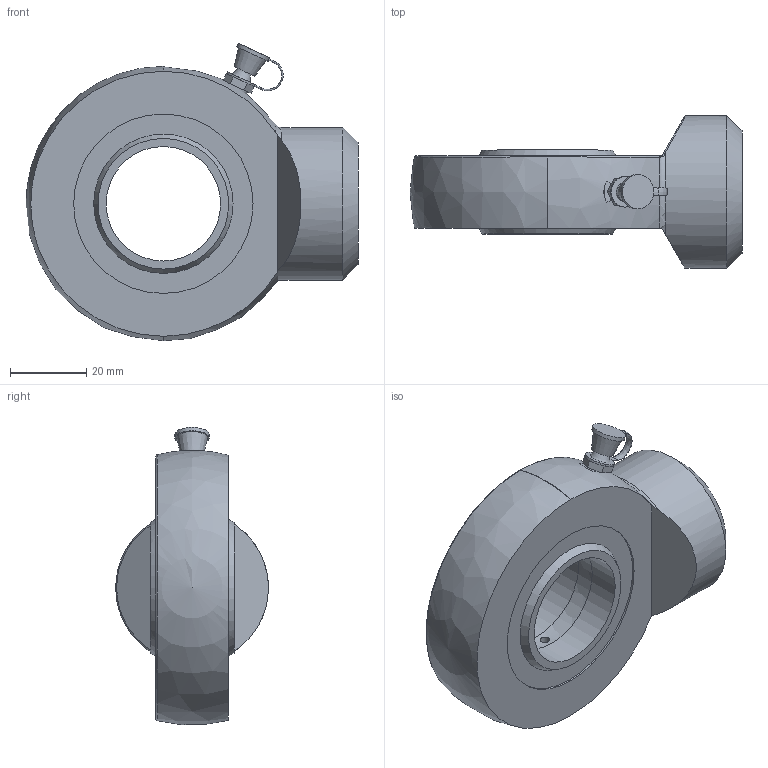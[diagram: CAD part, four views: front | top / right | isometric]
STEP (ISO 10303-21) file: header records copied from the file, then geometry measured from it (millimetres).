
FILE_DESCRIPTION( ( 'Unknown' ), '1' );
FILE_NAME( 'E:/LIBRERIA_3d/SNODI INDUSTRIALI/CSTS030C00.stp', 'Unknown', ( 'Unknown' ), ( 'Unknown' ), 'PSStep 17.0.49', 'Unknown', ' ' );
FILE_SCHEMA( ( 'AUTOMOTIVE_DESIGN { 1 0 10303 214 1 1 1 1 }' ) );
Length unit declared in the file: millimetre
Products named in the file (6): CSTSF030C0; tsc30c_CORPO; AN00006001; Assem1; CGE0300000; APGR013000
Assembly tree (5 placements, depth 3):
  Assem1
    CGE0300000
    APGR013000
    CSTSF030C0
      tsc30c_CORPO
      AN00006001
Bounding box: 87 x 39.96 x 77.93 mm (x, y, z)
Volume: 82955.5 mm3; surface area: 22482.2 mm2
Topology: 4 solids, 4 shells, 72 faces, 159 edges, 104 vertices
Faces by surface type: plane 30, cylinder 21, bspline 8, torus 6, sphere 5, cone 2
Full cylindrical faces by diameter (mm): 2.5 x2, 4 x1, 5 x3, 6 x1, 8 x1, 9 x1, 30 x2, 40 x1, 45 x1, 47 x3
Entity records: 3460 total; most frequent: CARTESIAN_POINT 1714, DIRECTION 304, ORIENTED_EDGE 234, AXIS2_PLACEMENT_3D 138, EDGE_LOOP 121, EDGE_CURVE 117, FACE_OUTER_BOUND 94, VERTEX_POINT 92
